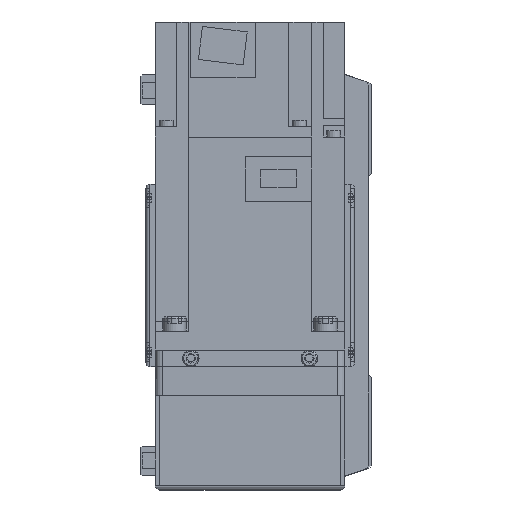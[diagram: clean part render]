
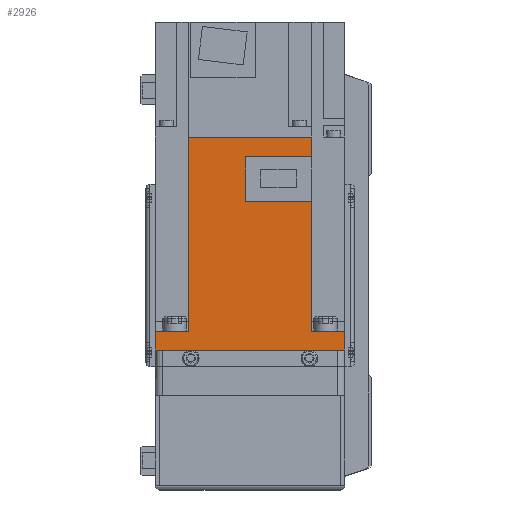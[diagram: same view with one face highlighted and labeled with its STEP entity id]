
A CAD part, left-side view. The second image highlights one B-rep face of the part: STEP entity #2926.
In plain terms, the highlighted planar face has unit normal (-1, 0, 0) as drawn and (1, 0, 0) by its records, which use the part's own axes.
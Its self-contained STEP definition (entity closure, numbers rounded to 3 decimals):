
#2926 = ADVANCED_FACE( '', ( #6307 ), #6308, .F. );
#6307 = FACE_OUTER_BOUND( '', #9987, .T. );
#6308 = PLANE( '', #9988 );
#9987 = EDGE_LOOP( '', ( #18154, #18155, #18156, #18157, #18158, #18159, #18160, #18161, #18162, #18163, #18164, #18165 ) );
#9988 = AXIS2_PLACEMENT_3D( '', #18166, #18167, #18168 );
#18154 = ORIENTED_EDGE( '', *, *, #21266, .F. );
#18155 = ORIENTED_EDGE( '', *, *, #23932, .F. );
#18156 = ORIENTED_EDGE( '', *, *, #21300, .F. );
#18157 = ORIENTED_EDGE( '', *, *, #23621, .T. );
#18158 = ORIENTED_EDGE( '', *, *, #23933, .F. );
#18159 = ORIENTED_EDGE( '', *, *, #23896, .T. );
#18160 = ORIENTED_EDGE( '', *, *, #22329, .T. );
#18161 = ORIENTED_EDGE( '', *, *, #23934, .F. );
#18162 = ORIENTED_EDGE( '', *, *, #22836, .F. );
#18163 = ORIENTED_EDGE( '', *, *, #23935, .F. );
#18164 = ORIENTED_EDGE( '', *, *, #23936, .F. );
#18165 = ORIENTED_EDGE( '', *, *, #20848, .F. );
#18166 = CARTESIAN_POINT( '', ( 40., 89.8, 40. ) );
#18167 = DIRECTION( '', ( -1., 0., 0. ) );
#18168 = DIRECTION( '', ( 0., 0., 1. ) );
#20848 = EDGE_CURVE( '', #24803, #24804, #24805, .T. );
#21266 = EDGE_CURVE( '', #25546, #24803, #25548, .T. );
#21300 = EDGE_CURVE( '', #25600, #25596, #25602, .T. );
#22329 = EDGE_CURVE( '', #27279, #27277, #27280, .T. );
#22836 = EDGE_CURVE( '', #28034, #28035, #28036, .T. );
#23621 = EDGE_CURVE( '', #25600, #29117, #29119, .T. );
#23896 = EDGE_CURVE( '', #29459, #27279, #29460, .T. );
#23932 = EDGE_CURVE( '', #25596, #25546, #29506, .T. );
#23933 = EDGE_CURVE( '', #29459, #29117, #29507, .T. );
#23934 = EDGE_CURVE( '', #28035, #27277, #29508, .T. );
#23935 = EDGE_CURVE( '', #27358, #28034, #29509, .T. );
#23936 = EDGE_CURVE( '', #24804, #27358, #29510, .T. );
#24803 = VERTEX_POINT( '', #30686 );
#24804 = VERTEX_POINT( '', #30687 );
#24805 = LINE( '', #30688, #30689 );
#25546 = VERTEX_POINT( '', #31660 );
#25548 = LINE( '', #31663, #31664 );
#25596 = VERTEX_POINT( '', #31718 );
#25600 = VERTEX_POINT( '', #31724 );
#25602 = LINE( '', #31727, #31728 );
#27277 = VERTEX_POINT( '', #34349 );
#27279 = VERTEX_POINT( '', #34352 );
#27280 = LINE( '', #34353, #34354 );
#27358 = VERTEX_POINT( '', #34458 );
#28034 = VERTEX_POINT( '', #35749 );
#28035 = VERTEX_POINT( '', #35750 );
#28036 = LINE( '', #35751, #35752 );
#29117 = VERTEX_POINT( '', #37510 );
#29119 = LINE( '', #37513, #37514 );
#29459 = VERTEX_POINT( '', #37993 );
#29460 = LINE( '', #37994, #37995 );
#29506 = LINE( '', #38053, #38054 );
#29507 = LINE( '', #38055, #38056 );
#29508 = LINE( '', #38057, #38058 );
#29509 = LINE( '', #38059, #38060 );
#29510 = LINE( '', #38061, #38062 );
#30686 = CARTESIAN_POINT( '', ( 40., 81.4, 1.8 ) );
#30687 = CARTESIAN_POINT( '', ( 40., 62.8, 1.8 ) );
#30688 = CARTESIAN_POINT( '', ( 40., 81.4, 1.8 ) );
#30689 = VECTOR( '', #39035, 1000. );
#31660 = CARTESIAN_POINT( '', ( 40., 81.4, -25.95 ) );
#31663 = CARTESIAN_POINT( '', ( 40., 81.4, -26. ) );
#31664 = VECTOR( '', #39623, 1000. );
#31718 = CARTESIAN_POINT( '', ( 40., 89.8, -25.95 ) );
#31724 = CARTESIAN_POINT( '', ( 40., 89.8, 25.95 ) );
#31727 = CARTESIAN_POINT( '', ( 40., 89.8, 40. ) );
#31728 = VECTOR( '', #39678, 1000. );
#34349 = CARTESIAN_POINT( '', ( 40., 0., -40. ) );
#34352 = CARTESIAN_POINT( '', ( 40., 0., 40. ) );
#34353 = CARTESIAN_POINT( '', ( 40., 0., 40. ) );
#34354 = VECTOR( '', #40973, 1000. );
#34458 = CARTESIAN_POINT( '', ( 40., 62.8, -25.95 ) );
#35749 = CARTESIAN_POINT( '', ( 40., 8., -25.95 ) );
#35750 = CARTESIAN_POINT( '', ( 40., 8., -40. ) );
#35751 = CARTESIAN_POINT( '', ( 40., 8., 40. ) );
#35752 = VECTOR( '', #41518, 1000. );
#37510 = CARTESIAN_POINT( '', ( 40., 8., 25.95 ) );
#37513 = CARTESIAN_POINT( '', ( 40., 158., 25.95 ) );
#37514 = VECTOR( '', #42429, 1000. );
#37993 = CARTESIAN_POINT( '', ( 40., 8., 40. ) );
#37994 = CARTESIAN_POINT( '', ( 40., 89.8, 40. ) );
#37995 = VECTOR( '', #42704, 1000. );
#38053 = CARTESIAN_POINT( '', ( 40., 158., -25.95 ) );
#38054 = VECTOR( '', #42741, 1000. );
#38055 = CARTESIAN_POINT( '', ( 40., 8., 40. ) );
#38056 = VECTOR( '', #42742, 1000. );
#38057 = CARTESIAN_POINT( '', ( 40., 89.8, -40. ) );
#38058 = VECTOR( '', #42743, 1000. );
#38059 = CARTESIAN_POINT( '', ( 40., 158., -25.95 ) );
#38060 = VECTOR( '', #42744, 1000. );
#38061 = CARTESIAN_POINT( '', ( 40., 62.8, 1.8 ) );
#38062 = VECTOR( '', #42745, 1000. );
#39035 = DIRECTION( '', ( 0., -1., 0. ) );
#39623 = DIRECTION( '', ( 0., 0., 1. ) );
#39678 = DIRECTION( '', ( 0., 0., -1. ) );
#40973 = DIRECTION( '', ( 0., 0., -1. ) );
#41518 = DIRECTION( '', ( 0., 0., -1. ) );
#42429 = DIRECTION( '', ( 0., -1., 0. ) );
#42704 = DIRECTION( '', ( 0., -1., 0. ) );
#42741 = DIRECTION( '', ( 0., -1., 0. ) );
#42742 = DIRECTION( '', ( 0., 0., -1. ) );
#42743 = DIRECTION( '', ( 0., -1., 0. ) );
#42744 = DIRECTION( '', ( 0., -1., 0. ) );
#42745 = DIRECTION( '', ( 0., 0., -1. ) );
